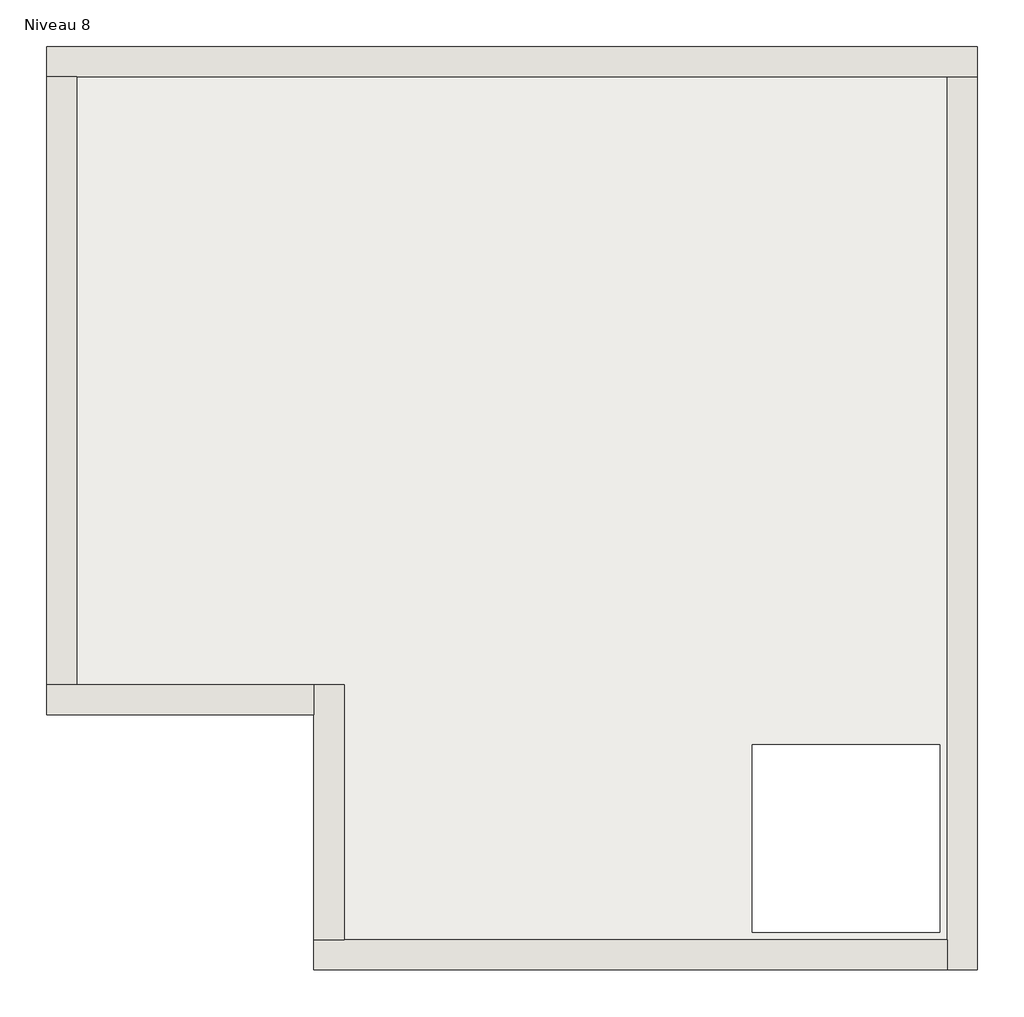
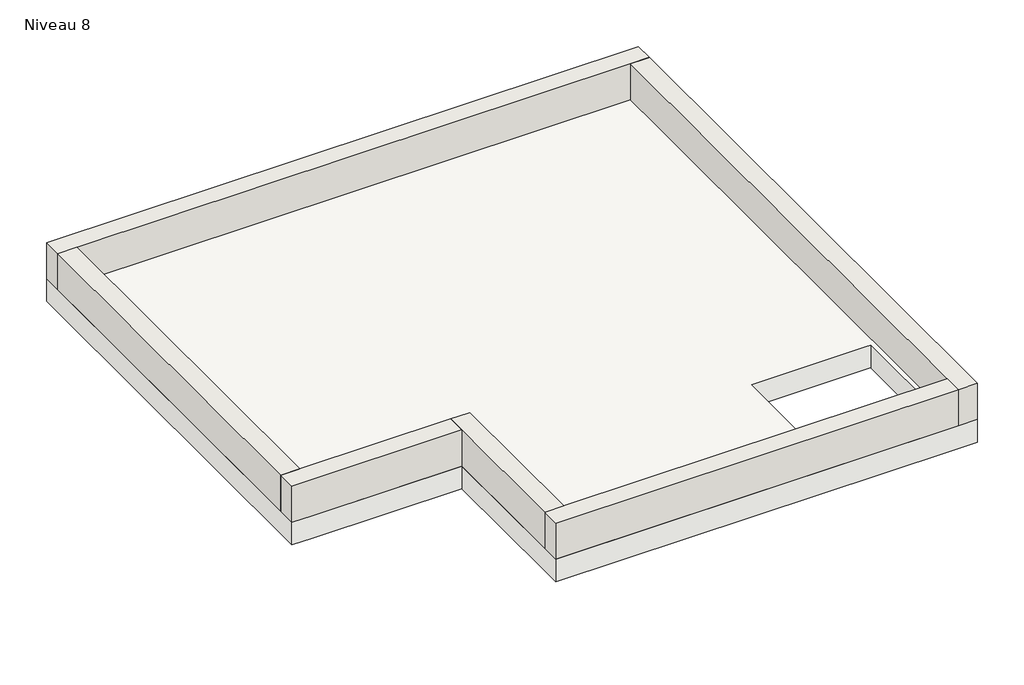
# One storey: 6 walls, 1 slab.
"""IFC4 building model written with IfcOpenShell, lengths in millimetres."""

from ifc_helpers import new_model, si_unit, frame, origin, place, context, project, spatial, polyline, outline, extrude, faceted_brep, element, save

model = new_model("IFC4")

# Units and contexts
model_context = context("Model", 3, world=origin())
ifc_project = project(units=[si_unit("LENGTHUNIT", "METRE", prefix="MILLI")], contexts=[model_context])

# Site, building, storey
site = spatial("IfcSite", under=ifc_project)
building = spatial("IfcBuilding", under=site)
storey = spatial("IfcBuildingStorey", under=building, Name="Niveau 8", Elevation=22280.0)

# Slab
placement = place(None, origin())
element("IfcSlab", 1, ObjectType="Plancher Béton 200 mm", at=placement, inside=storey, context=model_context, shape_type="Brep", body=[
    faceted_brep([(942.3079659, 3255.9031051, 22080.0), (942.3079659, 3095.9031051, 22080.0), (942.3079659, -1664.0968949, 22080.0), (712.3079659, -1664.0968949, 22080.0), (-2592.6920341, -1664.0968949, 22080.0), (-2592.6920341, -1504.0968949, 22080.0), (-2592.6920341, -304.0968949, 22080.0), (-3857.691895, -304.0968949, 22080.0), (-4017.691895, -304.0968949, 22080.0), (-4017.691895, 3095.9031051, 22080.0), (-4017.691895, 3255.9031051, 22080.0), (-2287.6920341, 3255.9031051, 22080.0), (-1287.6920341, 3255.9031051, 22080.0), (-257.6920341, -1464.0968949, 22080.0), (712.3079659, -1464.0968949, 22080.0), (742.3079659, -1464.0968949, 22080.0), (742.3079659, -464.0968949, 22080.0), (712.3079659, -464.0968949, 22080.0), (-257.6920341, -464.0968949, 22080.0), (942.3079659, -1664.0968949, 22280.0), (942.3079659, 3095.9031051, 22280.0), (942.3079659, 3255.9031051, 22280.0), (-4017.691895, 3255.9031051, 22280.0), (-4017.691895, 3095.9031051, 22280.0), (-4017.691895, -144.0968949, 22280.0), (-4017.691895, -304.0968949, 22280.0), (-2592.6920341, -304.0968949, 22280.0), (-2592.6920341, -1504.0968949, 22280.0), (-2592.6920341, -1664.0968949, 22280.0), (782.3079659, -1664.0968949, 22280.0), (742.3079659, -1464.0968949, 22280.0), (712.3079659, -1464.0968949, 22280.0), (-257.6920341, -1464.0968949, 22280.0), (-257.6920341, -464.0968949, 22280.0), (712.3079659, -464.0968949, 22280.0), (742.3079659, -464.0968949, 22280.0)], [[[0, 1, 2, 3, 4, 5, 6, 7, 8, 9, 10, 11, 12], [13, 14, 15, 16, 17, 18]], [[19, 20, 21, 22, 23, 24, 25, 26, 27, 28, 29], [30, 31, 32, 33, 34, 35]], [[2, 1, 0, 21, 20, 19]], [[4, 3, 2, 19, 29, 28]], [[6, 5, 4, 28, 27, 26]], [[8, 7, 6, 26, 25]], [[10, 9, 8, 25, 24, 23, 22]], [[0, 12, 11, 10, 22, 21]], [[13, 32, 31, 30, 15, 14]], [[15, 30, 35, 16]], [[16, 35, 34, 33, 18, 17]], [[32, 13, 18, 33]]]),
])

# Walls
element("IfcWall", 2, ObjectType="Béton 160 mm", at=placement, inside=storey, context=model_context, shape_type="Brep", body=[
    faceted_brep([(-4017.691895, 3095.9031051, 22280.0), (-3857.691895, 3095.9031051, 22280.0), (782.3079659, 3095.9031051, 22280.0), (942.3079659, 3095.9031051, 22280.0), (942.3079659, 3095.9031051, 22600.0), (782.3079659, 3095.9031051, 22600.0), (-3857.691895, 3095.9031051, 22600.0), (-4017.691895, 3095.9031051, 22600.0), (-4017.691895, 3255.9031051, 22280.0), (-4017.691895, 3255.9031051, 22600.0), (942.3079659, 3255.9031051, 22600.0), (942.3079659, 3255.9031051, 22280.0)], [[[0, 1, 2, 3, 4, 5, 6, 7]], [[8, 9, 10, 11]], [[3, 2, 1, 0, 8, 11]], [[7, 6, 5, 4, 10, 9]], [[4, 3, 11, 10]], [[0, 7, 9, 8]]]),
])
element("IfcWall", 3, ObjectType="Béton 160 mm", at=placement, inside=storey, context=model_context, shape_type="Brep", body=[
    faceted_brep([(782.3079659, 3095.9031051, 22280.0), (782.3079659, -1504.0968949, 22280.0), (782.3079659, -1664.0968949, 22280.0), (782.3079659, -1664.0968949, 22600.0), (782.3079659, -1504.0968949, 22600.0), (782.3079659, 3095.9031051, 22600.0), (942.3079659, 3095.9031051, 22280.0), (942.3079659, 3095.9031051, 22600.0), (942.3079659, -1664.0968949, 22600.0), (942.3079659, -1664.0968949, 22280.0)], [[[0, 1, 2, 3, 4, 5]], [[6, 7, 8, 9]], [[2, 1, 0, 6, 9]], [[5, 4, 3, 8, 7]], [[0, 5, 7, 6]], [[3, 2, 9, 8]]]),
])
element("IfcWall", 4, ObjectType="Béton 160 mm", at=placement, inside=storey, context=model_context, shape_type="Brep", body=[
    faceted_brep([(782.3079659, -1504.0968949, 22280.0), (-2432.6920341, -1504.0968949, 22280.0), (-2592.6920341, -1504.0968949, 22280.0), (-2592.6920341, -1504.0968949, 22600.0), (-2432.6920341, -1504.0968949, 22600.0), (782.3079659, -1504.0968949, 22600.0), (782.3079659, -1664.0968949, 22280.0), (782.3079659, -1664.0968949, 22600.0), (-2592.6920341, -1664.0968949, 22600.0), (-2592.6920341, -1664.0968949, 22280.0)], [[[0, 1, 2, 3, 4, 5]], [[6, 7, 8, 9]], [[2, 1, 0, 6, 9]], [[5, 4, 3, 8, 7]], [[0, 5, 7, 6]], [[3, 2, 9, 8]]]),
])
element("IfcWall", 5, ObjectType="Béton 160 mm", at=placement, inside=storey, context=model_context, shape_type="Brep", body=[
    faceted_brep([(-2432.6920341, -1504.0968949, 22280.0), (-2432.6920341, -144.0968949, 22280.0), (-2432.6920341, -144.0968949, 22600.0), (-2432.6920341, -1504.0968949, 22600.0), (-2592.6920341, -1504.0968949, 22280.0), (-2592.6920341, -1504.0968949, 22600.0), (-2592.6920341, -304.0968949, 22600.0), (-2592.6920341, -144.0968949, 22600.0), (-2592.6920341, -144.0968949, 22280.0), (-2592.6920341, -304.0968949, 22280.0)], [[[0, 1, 2, 3]], [[4, 5, 6, 7, 8, 9]], [[1, 0, 4, 9, 8]], [[3, 2, 7, 6, 5]], [[0, 3, 5, 4]], [[2, 1, 8, 7]]]),
])
element("IfcWall", 6, ObjectType="Béton 160 mm", at=placement, inside=storey, context=model_context, shape_type="Brep", body=[
    faceted_brep([(-2592.6920341, -144.0968949, 22280.0), (-3857.691895, -144.0968949, 22280.0), (-4017.691895, -144.0968949, 22280.0), (-4017.691895, -144.0968949, 22600.0), (-3857.691895, -144.0968949, 22600.0), (-2592.6920341, -144.0968949, 22600.0), (-2592.6920341, -304.0968949, 22280.0), (-2592.6920341, -304.0968949, 22600.0), (-4017.691895, -304.0968949, 22600.0), (-4017.691895, -304.0968949, 22280.0), (-3857.691895, -304.0968949, 22280.0)], [[[0, 1, 2, 3, 4, 5]], [[6, 7, 8, 9, 10]], [[2, 1, 0, 6, 10, 9]], [[5, 4, 3, 8, 7]], [[0, 5, 7, 6]], [[3, 2, 9, 8]]]),
])
element("IfcWall", 7, ObjectType="Béton 160 mm", at=placement, inside=storey, context=model_context, shape_type="SweptSolid", body=[
    extrude(outline(polyline([(-3857.691895, 3095.9031051), (-3857.691895, -144.0968949), (-4017.691895, -144.0968949), (-4017.691895, 3095.9031051), (-3857.691895, 3095.9031051)])), frame((0.0, 0.0, 22280.0), z_axis=(0.0, 0.0, 1.0), x_axis=(1.0, 0.0, 0.0)), (0.0, 0.0, 1.0), 320.0),
])

save(model, "model.ifc")
